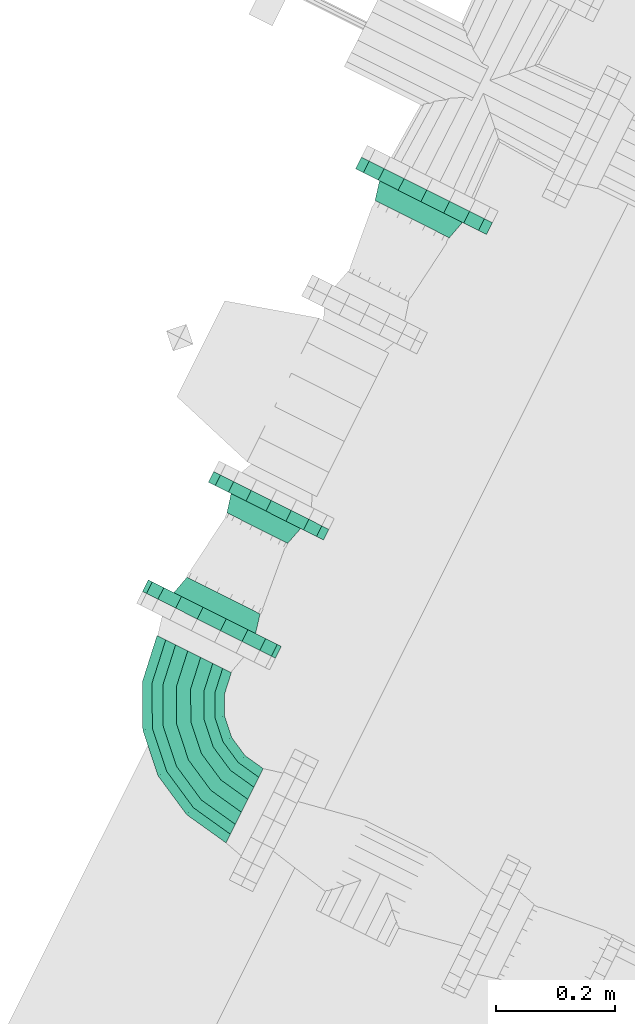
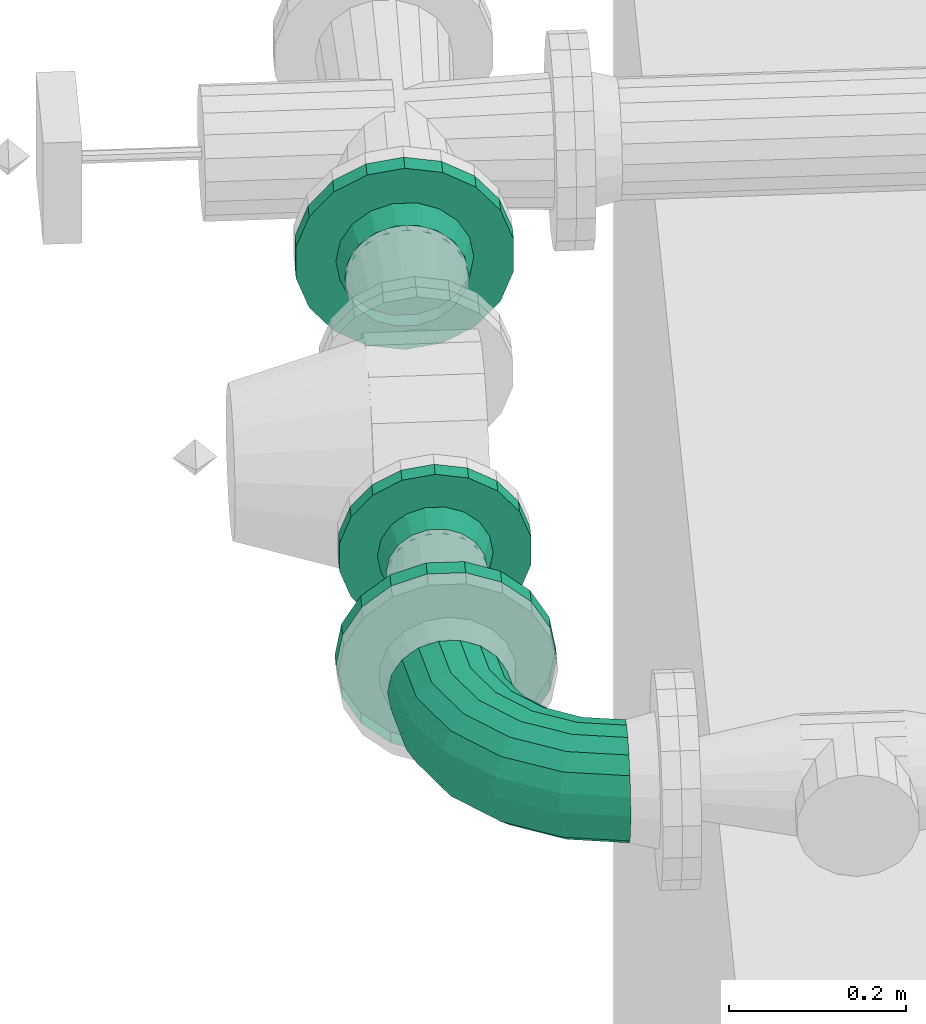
# One storey, part 102 of 206: 3 flow fittings, 1 flow segment.
"""IFC2X3 building model written with IfcOpenShell, lengths in metres."""

from ifc_helpers import new_model, si_unit, derived_unit, direction, frame, origin, place, context, subcontext, project, spatial, face_set, surface_model, source, transform, mapped, material, type_object, type_shapes, element, save


model = new_model("IFC2X3")

# Units and contexts
model_context = context("Model", 3, precision=5.2338327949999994e-05, world=origin(), true_north=direction((0.0, 1.0)))
body_context = subcontext(model_context, "Body", "Model", "MODEL_VIEW")
ifc_project = project(units=[si_unit("LENGTHUNIT", "METRE"), si_unit("AREAUNIT", "SQUARE_METRE"), si_unit("VOLUMEUNIT", "CUBIC_METRE"), si_unit("MASSUNIT", "GRAM", prefix="KILO"), si_unit("PLANEANGLEUNIT", "RADIAN"), derived_unit("THERMALTRANSMITTANCEUNIT", [(si_unit("MASSUNIT", "GRAM", prefix="KILO"), 1), (si_unit("THERMODYNAMICTEMPERATUREUNIT", "KELVIN"), -1), (si_unit("TIMEUNIT", "SECOND"), -3)])], contexts=[model_context])

# Site, building, storey
site_placement = place(None, frame((0.0, 0.0, 0.0), z_axis=(0.0, 0.0, 1.0), x_axis=(0.8939966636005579, -0.4480736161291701, 0.0)))
site = spatial("IfcSite", under=ifc_project, at=site_placement, Name="Default", CompositionType="ELEMENT")
building_placement = place(site_placement, origin())
building = spatial("IfcBuilding", under=site, at=building_placement, CompositionType="ELEMENT")
storey_placement = place(building_placement, origin())
storey = spatial("IfcBuildingStorey", under=building, at=storey_placement, Name="Erdgeschoss", CompositionType="ELEMENT", Elevation=0.0)

# Flow fittings
ifc_material = material(Name="IfcSurfaceStyle #1741")
distribution_element_type_1 = type_object("IfcDistributionElementType", Name="Flansch 307790:Flansch 307790", material=ifc_material)
shared_shape_1 = source(origin(), body_context, "Body", "SurfaceModel", [
    surface_model("IfcFaceBasedSurfaceModel", [(20.35098007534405, 6.45896109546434, 2.479), (20.30822755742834, 6.45896109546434, 2.4714615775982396), (20.30822755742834, 6.43696109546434, 2.4714615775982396), (20.35098007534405, 6.43696109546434, 2.479), (20.270631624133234, 6.45896109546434, 2.4497555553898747), (20.270631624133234, 6.43696109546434, 2.4497555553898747), (20.242726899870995, 6.45896109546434, 2.4165), (20.242726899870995, 6.43696109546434, 2.4165), (20.22787910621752, 6.45896109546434, 2.375706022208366), (20.22787910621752, 6.43696109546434, 2.375706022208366), (20.22787910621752, 6.45896109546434, 2.3322939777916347), (20.22787910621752, 6.43696109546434, 2.3322939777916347), (20.242726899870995, 6.45896109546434, 2.2915000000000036), (20.242726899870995, 6.43696109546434, 2.2915000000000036), (20.270631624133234, 6.45896109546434, 2.2582444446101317), (20.270631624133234, 6.43696109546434, 2.2582444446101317), (20.30822755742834, 6.45896109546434, 2.2365384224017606), (20.30822755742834, 6.43696109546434, 2.2365384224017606), (20.35098007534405, 6.45896109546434, 2.2290000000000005), (20.35098007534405, 6.43696109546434, 2.2290000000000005), (20.39373259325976, 6.45896109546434, 2.236538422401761), (20.39373259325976, 6.43696109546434, 2.236538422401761), (20.431328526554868, 6.45896109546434, 2.258244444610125), (20.431328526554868, 6.43696109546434, 2.258244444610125), (20.459233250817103, 6.45896109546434, 2.291500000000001), (20.459233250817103, 6.43696109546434, 2.291500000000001), (20.47408104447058, 6.45896109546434, 2.3322939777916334), (20.47408104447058, 6.43696109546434, 2.3322939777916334), (20.47408104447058, 6.45896109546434, 2.3757060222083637), (20.47408104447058, 6.43696109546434, 2.3757060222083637), (20.459233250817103, 6.45896109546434, 2.4164999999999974), (20.459233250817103, 6.43696109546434, 2.4164999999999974), (20.431328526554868, 6.45896109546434, 2.4497555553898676), (20.431328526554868, 6.43696109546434, 2.4497555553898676), (20.39373259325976, 6.45896109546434, 2.4714615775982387), (20.39373259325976, 6.43696109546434, 2.4714615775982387), (20.35098007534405, 6.43696109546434, 2.3540000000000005), (20.27298007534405, 6.43696109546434, 2.3540000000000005), (20.277684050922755, 6.43696109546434, 2.3273224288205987), (20.285342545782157, 6.403961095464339, 2.330109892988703), (20.281130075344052, 6.403961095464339, 2.3539999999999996), (20.291228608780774, 6.43696109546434, 2.303862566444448), (20.297471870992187, 6.403961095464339, 2.3091012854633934), (20.311980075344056, 6.43696109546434, 2.286450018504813), (20.316055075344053, 6.403961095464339, 2.2935081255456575), (20.33743551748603, 6.43696109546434, 2.277184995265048), (20.338850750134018, 6.403961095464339, 2.2852111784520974), (20.36452463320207, 6.43696109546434, 2.277184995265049), (20.363109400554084, 6.403961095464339, 2.2852111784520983), (20.38998007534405, 6.43696109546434, 2.2864500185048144), (20.38590507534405, 6.403961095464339, 2.2935081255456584), (20.410731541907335, 6.43696109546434, 2.3038625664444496), (20.404488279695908, 6.403961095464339, 2.3091012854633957), (20.42427609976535, 6.43696109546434, 2.3273224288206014), (20.416617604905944, 6.403961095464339, 2.330109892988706), (20.428980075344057, 6.436961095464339, 2.354000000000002), (20.420830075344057, 6.4039610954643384, 2.3540000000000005), (20.42427609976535, 6.43696109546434, 2.380677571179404), (20.41661760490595, 6.403961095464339, 2.3778901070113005), (20.41073154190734, 6.436961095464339, 2.4041374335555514), (20.40448827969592, 6.4039610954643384, 2.3988987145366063), (20.38998007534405, 6.43696109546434, 2.4215499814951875), (20.38590507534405, 6.403961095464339, 2.414491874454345), (20.364524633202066, 6.43696109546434, 2.4308150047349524), (20.363109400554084, 6.403961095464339, 2.422788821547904), (20.337435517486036, 6.43696109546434, 2.4308150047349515), (20.338850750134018, 6.403961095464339, 2.4227888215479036), (20.311980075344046, 6.43696109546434, 2.4215499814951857), (20.316055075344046, 6.403961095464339, 2.4144918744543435), (20.29122860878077, 6.43696109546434, 2.4041374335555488), (20.297471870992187, 6.403961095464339, 2.398898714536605), (20.277684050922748, 6.43696109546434, 2.3806775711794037), (20.285342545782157, 6.403961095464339, 2.3778901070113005)], [face_set([[[0, 1, 2, 3]], [[1, 4, 5, 2]], [[4, 6, 7, 5]], [[6, 8, 9, 7]], [[8, 10, 11, 9]], [[10, 12, 13, 11]], [[12, 14, 15, 13]], [[14, 16, 17, 15]], [[16, 18, 19, 17]], [[18, 20, 21, 19]], [[20, 22, 23, 21]], [[22, 24, 25, 23]], [[24, 26, 27, 25]], [[26, 28, 29, 27]], [[28, 30, 31, 29]], [[30, 32, 33, 31]], [[32, 34, 35, 33]], [[34, 0, 3, 35]], [[36, 35, 3]], [[36, 33, 35]], [[36, 31, 33]], [[36, 29, 31]], [[36, 27, 29]], [[36, 25, 27]], [[36, 23, 25]], [[36, 21, 23]], [[36, 19, 21]], [[36, 17, 19]], [[36, 15, 17]], [[36, 13, 15]], [[36, 11, 13]], [[36, 9, 11]], [[36, 7, 9]], [[36, 5, 7]], [[36, 2, 5]], [[36, 3, 2]], [[37, 38, 39, 40]], [[38, 41, 42, 39]], [[41, 43, 44, 42]], [[43, 45, 46, 44]], [[45, 47, 48, 46]], [[47, 49, 50, 48]], [[49, 51, 52, 50]], [[51, 53, 54, 52]], [[53, 55, 56, 54]], [[55, 57, 58, 56]], [[57, 59, 60, 58]], [[59, 61, 62, 60]], [[61, 63, 64, 62]], [[63, 65, 66, 64]], [[65, 67, 68, 66]], [[67, 69, 70, 68]], [[69, 71, 72, 70]], [[71, 37, 40, 72]]])]),
])
type_shapes(distribution_element_type_1, [shared_shape_1])
flow_fitting_1_placement = place(storey_placement, origin())
element("IfcFlowFitting", 1, at=flow_fitting_1_placement, inside=storey, type_object=distribution_element_type_1, material=ifc_material, Name="Flansch", ObjectType="Flansch", context=body_context, shape_type="MappedRepresentation", body=[
    mapped(shared_shape_1, transform((0.0, 0.0, 0.0), scale=1.0)),
])
distribution_element_type_2 = type_object("IfcDistributionElementType", Name="Flansch 309235:Flansch 309235", material=ifc_material)
shared_shape_2 = source(origin(), body_context, "Body", "SurfaceModel", [
    surface_model("IfcFaceBasedSurfaceModel", [(20.35098007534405, 5.874961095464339, 2.4639999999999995), (20.313357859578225, 5.874961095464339, 2.457366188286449), (20.313357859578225, 5.85496109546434, 2.457366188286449), (20.35098007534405, 5.85496109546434, 2.4640000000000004), (20.28027343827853, 5.874961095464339, 2.438264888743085), (20.28027343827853, 5.85496109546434, 2.438264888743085), (20.25571728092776, 5.874961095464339, 2.4090000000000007), (20.25571728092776, 5.85496109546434, 2.4090000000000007), (20.242651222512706, 5.874961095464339, 2.3731012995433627), (20.242651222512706, 5.85496109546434, 2.3731012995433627), (20.242651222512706, 5.874961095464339, 2.3348987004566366), (20.242651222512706, 5.85496109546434, 2.3348987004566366), (20.25571728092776, 5.874961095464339, 2.298999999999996), (20.25571728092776, 5.85496109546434, 2.298999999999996), (20.28027343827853, 5.874961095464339, 2.2697351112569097), (20.28027343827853, 5.85496109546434, 2.2697351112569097), (20.31335785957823, 5.874961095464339, 2.2506338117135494), (20.31335785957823, 5.85496109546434, 2.2506338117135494), (20.35098007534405, 5.874961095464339, 2.2439999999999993), (20.35098007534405, 5.85496109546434, 2.2439999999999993), (20.388602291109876, 5.874961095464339, 2.25063381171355), (20.388602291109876, 5.85496109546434, 2.25063381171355), (20.421686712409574, 5.874961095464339, 2.269735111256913), (20.421686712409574, 5.85496109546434, 2.269735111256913), (20.446242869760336, 5.874961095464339, 2.299000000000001), (20.446242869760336, 5.85496109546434, 2.299000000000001), (20.459308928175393, 5.874961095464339, 2.3348987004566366), (20.459308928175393, 5.85496109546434, 2.3348987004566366), (20.459308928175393, 5.874961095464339, 2.373101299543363), (20.459308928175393, 5.85496109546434, 2.373101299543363), (20.446242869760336, 5.874961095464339, 2.4090000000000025), (20.446242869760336, 5.85496109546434, 2.4090000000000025), (20.42168671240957, 5.874961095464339, 2.43826488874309), (20.42168671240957, 5.85496109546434, 2.43826488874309), (20.388602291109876, 5.874961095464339, 2.4573661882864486), (20.388602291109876, 5.85496109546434, 2.4573661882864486), (20.35098007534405, 5.85496109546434, 2.354), (20.285480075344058, 5.854961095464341, 2.353999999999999), (20.28943020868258, 5.854961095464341, 2.3315976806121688), (20.297276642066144, 5.822961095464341, 2.334453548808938), (20.293830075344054, 5.82296109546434, 2.354000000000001), (20.300804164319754, 5.854961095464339, 2.311897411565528), (20.3072006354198, 5.822961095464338, 2.3172646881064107), (20.318230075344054, 5.85496109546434, 2.29727533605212), (20.32240507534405, 5.82296109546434, 2.304506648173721), (20.33960611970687, 5.85496109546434, 2.289495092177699), (20.341056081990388, 5.82296109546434, 2.297718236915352), (20.362354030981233, 5.85496109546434, 2.2894950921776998), (20.360904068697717, 5.82296109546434, 2.2977182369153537), (20.38373007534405, 5.85496109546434, 2.2972753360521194), (20.379555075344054, 5.82296109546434, 2.3045066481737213), (20.401155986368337, 5.85496109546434, 2.311897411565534), (20.394759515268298, 5.82296109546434, 2.3172646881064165), (20.412529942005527, 5.85496109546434, 2.331597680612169), (20.404683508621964, 5.82296109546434, 2.3344535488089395), (20.41648007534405, 5.85496109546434, 2.353999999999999), (20.408130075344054, 5.82296109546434, 2.3540000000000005), (20.41252994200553, 5.85496109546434, 2.376402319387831), (20.404683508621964, 5.82296109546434, 2.3735464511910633), (20.401155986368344, 5.85496109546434, 2.396102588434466), (20.394759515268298, 5.82296109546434, 2.3907353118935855), (20.38373007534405, 5.85496109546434, 2.410724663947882), (20.37955507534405, 5.82296109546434, 2.403493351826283), (20.362354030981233, 5.85496109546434, 2.4185049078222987), (20.36090406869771, 5.82296109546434, 2.410281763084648), (20.33960611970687, 5.85496109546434, 2.4185049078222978), (20.341056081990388, 5.82296109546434, 2.4102817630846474), (20.31823007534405, 5.85496109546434, 2.410724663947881), (20.322405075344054, 5.82296109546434, 2.403493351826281), (20.30080416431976, 5.85496109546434, 2.3961025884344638), (20.3072006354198, 5.82296109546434, 2.3907353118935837), (20.289430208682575, 5.85496109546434, 2.3764023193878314), (20.297276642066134, 5.82296109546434, 2.3735464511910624)], [face_set([[[0, 1, 2, 3]], [[1, 4, 5, 2]], [[4, 6, 7, 5]], [[6, 8, 9, 7]], [[8, 10, 11, 9]], [[10, 12, 13, 11]], [[12, 14, 15, 13]], [[14, 16, 17, 15]], [[16, 18, 19, 17]], [[18, 20, 21, 19]], [[20, 22, 23, 21]], [[22, 24, 25, 23]], [[24, 26, 27, 25]], [[26, 28, 29, 27]], [[28, 30, 31, 29]], [[30, 32, 33, 31]], [[32, 34, 35, 33]], [[34, 0, 3, 35]], [[36, 35, 3]], [[36, 33, 35]], [[36, 31, 33]], [[36, 29, 31]], [[36, 27, 29]], [[36, 25, 27]], [[36, 23, 25]], [[36, 21, 23]], [[36, 19, 21]], [[36, 17, 19]], [[36, 15, 17]], [[36, 13, 15]], [[36, 11, 13]], [[36, 9, 11]], [[36, 7, 9]], [[36, 5, 7]], [[36, 2, 5]], [[36, 3, 2]], [[37, 38, 39, 40]], [[38, 41, 42, 39]], [[41, 43, 44, 42]], [[43, 45, 46, 44]], [[45, 47, 48, 46]], [[47, 49, 50, 48]], [[49, 51, 52, 50]], [[51, 53, 54, 52]], [[53, 55, 56, 54]], [[55, 57, 58, 56]], [[57, 59, 60, 58]], [[59, 61, 62, 60]], [[61, 63, 64, 62]], [[63, 65, 66, 64]], [[65, 67, 68, 66]], [[67, 69, 70, 68]], [[69, 71, 72, 70]], [[71, 37, 40, 72]]])]),
])
type_shapes(distribution_element_type_2, [shared_shape_2])
flow_fitting_2_placement = place(storey_placement, origin())
element("IfcFlowFitting", 2, at=flow_fitting_2_placement, inside=storey, type_object=distribution_element_type_2, material=ifc_material, Name="Flansch", ObjectType="Flansch", context=body_context, shape_type="MappedRepresentation", body=[
    mapped(shared_shape_2, transform((0.0, 0.0, 0.0), scale=1.0)),
])
distribution_element_type_3 = type_object("IfcDistributionElementType", Name="Flansch 309258:Flansch 309258", material=ifc_material)
shared_shape_3 = source(origin(), body_context, "Body", "SurfaceModel", [
    surface_model("IfcFaceBasedSurfaceModel", [(20.225980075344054, 5.640961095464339, 2.354000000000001), (20.233518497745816, 5.640961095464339, 2.396752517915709), (20.233518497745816, 5.662961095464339, 2.396752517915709), (20.225980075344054, 5.662961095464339, 2.354000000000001), (20.255224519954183, 5.640961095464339, 2.4343484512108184), (20.255224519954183, 5.662961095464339, 2.4343484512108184), (20.28848007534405, 5.640961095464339, 2.4622531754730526), (20.28848007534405, 5.662961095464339, 2.4622531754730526), (20.329274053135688, 5.640961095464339, 2.4771009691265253), (20.329274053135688, 5.662961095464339, 2.4771009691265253), (20.37268609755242, 5.640961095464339, 2.4771009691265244), (20.37268609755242, 5.662961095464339, 2.4771009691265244), (20.413480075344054, 5.640961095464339, 2.4622531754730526), (20.413480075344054, 5.662961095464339, 2.4622531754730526), (20.446735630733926, 5.640961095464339, 2.4343484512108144), (20.446735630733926, 5.662961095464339, 2.4343484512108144), (20.468441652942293, 5.640961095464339, 2.396752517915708), (20.468441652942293, 5.662961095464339, 2.396752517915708), (20.47598007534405, 5.640961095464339, 2.3539999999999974), (20.47598007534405, 5.662961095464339, 2.3539999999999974), (20.468441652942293, 5.640961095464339, 2.3112474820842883), (20.468441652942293, 5.662961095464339, 2.3112474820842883), (20.446735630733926, 5.640961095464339, 2.2736515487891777), (20.446735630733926, 5.662961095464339, 2.2736515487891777), (20.413480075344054, 5.640961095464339, 2.2457468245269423), (20.413480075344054, 5.662961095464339, 2.2457468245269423), (20.37268609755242, 5.640961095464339, 2.230899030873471), (20.37268609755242, 5.662961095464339, 2.230899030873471), (20.329274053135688, 5.640961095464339, 2.2308990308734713), (20.329274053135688, 5.662961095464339, 2.2308990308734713), (20.28848007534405, 5.640961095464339, 2.2457468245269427), (20.28848007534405, 5.662961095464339, 2.2457468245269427), (20.255224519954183, 5.640961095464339, 2.273651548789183), (20.255224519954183, 5.662961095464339, 2.273651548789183), (20.233518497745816, 5.640961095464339, 2.3112474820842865), (20.233518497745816, 5.662961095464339, 2.3112474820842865), (20.350980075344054, 5.662961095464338, 2.353999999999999), (20.350980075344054, 5.662961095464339, 2.4319999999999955), (20.377657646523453, 5.662961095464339, 2.427296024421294), (20.374870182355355, 5.695961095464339, 2.419637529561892), (20.350980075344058, 5.69596109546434, 2.423849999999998), (20.401117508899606, 5.662961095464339, 2.413751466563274), (20.39587878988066, 5.695961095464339, 2.407508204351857), (20.418530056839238, 5.662961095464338, 2.392999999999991), (20.411471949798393, 5.695961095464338, 2.3889249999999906), (20.427795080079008, 5.662961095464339, 2.3675445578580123), (20.41976889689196, 5.695961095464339, 2.366129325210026), (20.427795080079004, 5.662961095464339, 2.340455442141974), (20.419768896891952, 5.695961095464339, 2.3418706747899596), (20.418530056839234, 5.662961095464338, 2.3149999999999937), (20.411471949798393, 5.695961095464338, 2.319074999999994), (20.401117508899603, 5.662961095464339, 2.294248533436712), (20.39587878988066, 5.695961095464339, 2.300491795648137), (20.377657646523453, 5.662961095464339, 2.280703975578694), (20.37487018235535, 5.695961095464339, 2.2883624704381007), (20.350980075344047, 5.662961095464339, 2.2759999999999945), (20.35098007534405, 5.695961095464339, 2.2841499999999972), (20.324302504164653, 5.662961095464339, 2.2807039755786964), (20.327089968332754, 5.695961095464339, 2.288362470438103), (20.3008426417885, 5.662961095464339, 2.294248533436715), (20.306081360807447, 5.695961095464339, 2.300491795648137), (20.283430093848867, 5.662961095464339, 2.3149999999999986), (20.29048820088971, 5.695961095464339, 2.319074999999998), (20.2741650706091, 5.662961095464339, 2.340455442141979), (20.282191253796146, 5.695961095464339, 2.3418706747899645), (20.2741650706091, 5.662961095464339, 2.367544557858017), (20.282191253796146, 5.695961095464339, 2.3661293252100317), (20.28343009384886, 5.66296109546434, 2.3929999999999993), (20.290488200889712, 5.69596109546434, 2.388924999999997), (20.30084264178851, 5.662961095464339, 2.413751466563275), (20.306081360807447, 5.695961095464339, 2.4075082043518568), (20.324302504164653, 5.662961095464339, 2.4272960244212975), (20.327089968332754, 5.695961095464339, 2.4196375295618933)], [face_set([[[0, 1, 2, 3]], [[1, 4, 5, 2]], [[4, 6, 7, 5]], [[6, 8, 9, 7]], [[8, 10, 11, 9]], [[10, 12, 13, 11]], [[12, 14, 15, 13]], [[14, 16, 17, 15]], [[16, 18, 19, 17]], [[18, 20, 21, 19]], [[20, 22, 23, 21]], [[22, 24, 25, 23]], [[24, 26, 27, 25]], [[26, 28, 29, 27]], [[28, 30, 31, 29]], [[30, 32, 33, 31]], [[32, 34, 35, 33]], [[34, 0, 3, 35]], [[36, 35, 3]], [[36, 33, 35]], [[36, 31, 33]], [[36, 29, 31]], [[36, 27, 29]], [[36, 25, 27]], [[36, 23, 25]], [[36, 21, 23]], [[36, 19, 21]], [[36, 17, 19]], [[36, 15, 17]], [[36, 13, 15]], [[36, 11, 13]], [[36, 9, 11]], [[36, 7, 9]], [[36, 5, 7]], [[36, 2, 5]], [[36, 3, 2]], [[37, 38, 39, 40]], [[38, 41, 42, 39]], [[41, 43, 44, 42]], [[43, 45, 46, 44]], [[45, 47, 48, 46]], [[47, 49, 50, 48]], [[49, 51, 52, 50]], [[51, 53, 54, 52]], [[53, 55, 56, 54]], [[55, 57, 58, 56]], [[57, 59, 60, 58]], [[59, 61, 62, 60]], [[61, 63, 64, 62]], [[63, 65, 66, 64]], [[65, 67, 68, 66]], [[67, 69, 70, 68]], [[69, 71, 72, 70]], [[71, 37, 40, 72]]])]),
])
type_shapes(distribution_element_type_3, [shared_shape_3])
flow_fitting_3_placement = place(storey_placement, origin())
element("IfcFlowFitting", 3, at=flow_fitting_3_placement, inside=storey, type_object=distribution_element_type_3, material=ifc_material, Name="Flansch", ObjectType="Flansch", context=body_context, shape_type="MappedRepresentation", body=[
    mapped(shared_shape_3, transform((0.0, 0.0, 0.0), scale=1.0)),
])

# Flow segment
distribution_element_type_4 = type_object("IfcDistributionElementType", Name="Rohrbogen 311557:Rohrbogen 311557", material=ifc_material)
shared_shape_4 = source(origin(), body_context, "Body", "SurfaceModel", [
    surface_model("IfcFaceBasedSurfaceModel", [(20.28113007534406, 5.585961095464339, 2.3539999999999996), (20.28534254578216, 5.585961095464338, 2.3301098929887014), (20.297854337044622, 5.506964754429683, 2.330109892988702), (20.29384803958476, 5.50566302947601, 2.354000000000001), (20.334164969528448, 5.435701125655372, 2.3301098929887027), (20.33075700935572, 5.433225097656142, 2.3540000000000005), (20.390720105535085, 5.379145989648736, 2.3301098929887), (20.38824407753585, 5.375738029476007, 2.3539999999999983), (20.4619837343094, 5.342835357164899, 2.330109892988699), (20.460682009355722, 5.338829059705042, 2.353999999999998), (20.540980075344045, 5.3303235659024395, 2.3301098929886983), (20.540980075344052, 5.326111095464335, 2.353999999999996), (20.297471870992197, 5.585961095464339, 2.309101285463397), (20.309390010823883, 5.510712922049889, 2.309101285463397), (20.343977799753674, 5.442830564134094, 2.309101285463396), (20.397849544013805, 5.388958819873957, 2.309101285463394), (20.465731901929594, 5.354371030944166, 2.309101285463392), (20.540980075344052, 5.342452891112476, 2.3091012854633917), (20.316055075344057, 5.585961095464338, 2.2935081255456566), (20.327063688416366, 5.516455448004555, 2.293508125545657), (20.359011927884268, 5.453753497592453, 2.2935081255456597), (20.40877247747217, 5.403992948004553, 2.2935081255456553), (20.47147442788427, 5.372044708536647, 2.2935081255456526), (20.540980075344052, 5.361036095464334, 2.293508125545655), (20.338850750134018, 5.585961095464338, 2.2852111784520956), (20.348743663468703, 5.5234996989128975, 2.2852111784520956), (20.377454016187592, 5.467152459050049, 2.285211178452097), (20.422171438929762, 5.422435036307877, 2.285211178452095), (20.47851867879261, 5.393724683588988, 2.285211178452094), (20.540980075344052, 5.383831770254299, 2.285211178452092), (20.363109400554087, 5.585961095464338, 2.285211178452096), (20.371815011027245, 5.5309960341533, 2.285211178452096), (20.397079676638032, 5.481411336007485, 2.2852111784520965), (20.4364303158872, 5.442060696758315, 2.285211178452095), (20.486015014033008, 5.416796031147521, 2.285211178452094), (20.540980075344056, 5.408090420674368, 2.285211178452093), (20.385905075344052, 5.585961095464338, 2.2935081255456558), (20.39349498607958, 5.538040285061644, 2.2935081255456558), (20.41552176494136, 5.494810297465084, 2.293508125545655), (20.449829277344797, 5.460502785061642, 2.2935081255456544), (20.493059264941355, 5.438476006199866, 2.293508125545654), (20.540980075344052, 5.430886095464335, 2.2935081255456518), (20.404488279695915, 5.585961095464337, 2.309101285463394), (20.411168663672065, 5.543782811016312, 2.309101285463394), (20.43055589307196, 5.505733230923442, 2.309101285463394), (20.460752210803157, 5.475536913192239, 2.3091012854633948), (20.49880179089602, 5.4561496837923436, 2.30910128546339), (20.540980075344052, 5.449469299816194, 2.30910128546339), (20.41661760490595, 5.585961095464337, 2.330109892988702), (20.42270433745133, 5.54753097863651, 2.330109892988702), (20.440368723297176, 5.512862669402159, 2.3301098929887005), (20.467881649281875, 5.4853497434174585, 2.3301098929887), (20.50254995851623, 5.467685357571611, 2.330109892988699), (20.540980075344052, 5.461598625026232, 2.3301098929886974), (20.420830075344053, 5.585961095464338, 2.353999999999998), (20.426710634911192, 5.548832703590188, 2.3539999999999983), (20.443776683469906, 5.515338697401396, 2.3539999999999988), (20.47035767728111, 5.488757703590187, 2.3539999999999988), (20.5038516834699, 5.471691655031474, 2.353999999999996), (20.540980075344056, 5.465811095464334, 2.3539999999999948), (20.416617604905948, 5.585961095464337, 2.377890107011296), (20.42270433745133, 5.54753097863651, 2.377890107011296), (20.440368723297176, 5.51286266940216, 2.377890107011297), (20.467881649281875, 5.485349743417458, 2.3778901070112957), (20.50254995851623, 5.467685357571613, 2.3778901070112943), (20.540980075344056, 5.461598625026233, 2.3778901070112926), (20.40448827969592, 5.585961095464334, 2.3988987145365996), (20.41116866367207, 5.543782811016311, 2.3988987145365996), (20.43055589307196, 5.505733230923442, 2.3988987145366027), (20.460752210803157, 5.475536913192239, 2.3988987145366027), (20.49880179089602, 5.456149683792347, 2.398898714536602), (20.540980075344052, 5.449469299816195, 2.398898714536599), (20.38590507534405, 5.585961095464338, 2.414491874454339), (20.39349498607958, 5.538040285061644, 2.414491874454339), (20.41552176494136, 5.494810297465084, 2.4144918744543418), (20.4498292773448, 5.460502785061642, 2.414491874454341), (20.49305926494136, 5.438476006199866, 2.4144918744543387), (20.540980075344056, 5.430886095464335, 2.4144918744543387), (20.363109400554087, 5.585961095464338, 2.422788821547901), (20.371815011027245, 5.5309960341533, 2.4227888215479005), (20.397079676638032, 5.481411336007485, 2.422788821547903), (20.4364303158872, 5.442060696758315, 2.4227888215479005), (20.486015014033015, 5.416796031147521, 2.422788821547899), (20.540980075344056, 5.408090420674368, 2.4227888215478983), (20.33885075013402, 5.585961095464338, 2.422788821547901), (20.34874366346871, 5.5234996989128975, 2.422788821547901), (20.377454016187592, 5.467152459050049, 2.422788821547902), (20.422171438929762, 5.422435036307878, 2.422788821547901), (20.47851867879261, 5.393724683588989, 2.4227888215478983), (20.540980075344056, 5.383831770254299, 2.4227888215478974), (20.31605507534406, 5.585961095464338, 2.4144918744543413), (20.32706368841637, 5.516455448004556, 2.414491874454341), (20.359011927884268, 5.4537534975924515, 2.414491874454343), (20.40877247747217, 5.403992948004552, 2.414491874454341), (20.471474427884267, 5.372044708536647, 2.414491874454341), (20.540980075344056, 5.361036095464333, 2.414491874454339), (20.297471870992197, 5.585961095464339, 2.398898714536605), (20.309390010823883, 5.510712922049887, 2.398898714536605), (20.343977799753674, 5.442830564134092, 2.3988987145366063), (20.397849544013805, 5.388958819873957, 2.3988987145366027), (20.4657319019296, 5.354371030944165, 2.398898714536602), (20.540980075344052, 5.342452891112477, 2.3988987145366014), (20.285342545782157, 5.585961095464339, 2.377890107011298), (20.29785433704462, 5.506964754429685, 2.3778901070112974), (20.334164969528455, 5.435701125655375, 2.377890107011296), (20.390720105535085, 5.3791459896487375, 2.3778901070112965), (20.4619837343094, 5.342835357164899, 2.377890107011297), (20.540980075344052, 5.33032356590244, 2.3778901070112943)], [face_set([[[0, 1, 2, 3]], [[3, 2, 4, 5]], [[5, 4, 6, 7]], [[7, 6, 8, 9]], [[9, 8, 10, 11]], [[1, 12, 13, 2]], [[2, 13, 14, 4]], [[4, 14, 15, 6]], [[6, 15, 16, 8]], [[8, 16, 17, 10]], [[12, 18, 19, 13]], [[13, 19, 20, 14]], [[14, 20, 21, 15]], [[15, 21, 22, 16]], [[16, 22, 23, 17]], [[18, 24, 25, 19]], [[19, 25, 26, 20]], [[20, 26, 27, 21]], [[21, 27, 28, 22]], [[22, 28, 29, 23]], [[24, 30, 31, 25]], [[25, 31, 32, 26]], [[26, 32, 33, 27]], [[27, 33, 34, 28]], [[28, 34, 35, 29]], [[30, 36, 37, 31]], [[31, 37, 38, 32]], [[32, 38, 39, 33]], [[33, 39, 40, 34]], [[34, 40, 41, 35]], [[36, 42, 43, 37]], [[37, 43, 44, 38]], [[38, 44, 45, 39]], [[39, 45, 46, 40]], [[40, 46, 47, 41]], [[42, 48, 49, 43]], [[43, 49, 50, 44]], [[44, 50, 51, 45]], [[45, 51, 52, 46]], [[46, 52, 53, 47]], [[48, 54, 55, 49]], [[49, 55, 56, 50]], [[50, 56, 57, 51]], [[51, 57, 58, 52]], [[52, 58, 59, 53]], [[54, 60, 61, 55]], [[55, 61, 62, 56]], [[56, 62, 63, 57]], [[57, 63, 64, 58]], [[58, 64, 65, 59]], [[60, 66, 67, 61]], [[61, 67, 68, 62]], [[62, 68, 69, 63]], [[63, 69, 70, 64]], [[64, 70, 71, 65]], [[66, 72, 73, 67]], [[67, 73, 74, 68]], [[68, 74, 75, 69]], [[69, 75, 76, 70]], [[70, 76, 77, 71]], [[72, 78, 79, 73]], [[73, 79, 80, 74]], [[74, 80, 81, 75]], [[75, 81, 82, 76]], [[76, 82, 83, 77]], [[78, 84, 85, 79]], [[79, 85, 86, 80]], [[80, 86, 87, 81]], [[81, 87, 88, 82]], [[82, 88, 89, 83]], [[84, 90, 91, 85]], [[85, 91, 92, 86]], [[86, 92, 93, 87]], [[87, 93, 94, 88]], [[88, 94, 95, 89]], [[90, 96, 97, 91]], [[91, 97, 98, 92]], [[92, 98, 99, 93]], [[93, 99, 100, 94]], [[94, 100, 101, 95]], [[96, 102, 103, 97]], [[97, 103, 104, 98]], [[98, 104, 105, 99]], [[99, 105, 106, 100]], [[100, 106, 107, 101]], [[102, 0, 3, 103]], [[103, 3, 5, 104]], [[104, 5, 7, 105]], [[105, 7, 9, 106]], [[106, 9, 11, 107]]])]),
])
type_shapes(distribution_element_type_4, [shared_shape_4])
flow_segment_placement = place(storey_placement, origin())
element("IfcFlowSegment", 4, at=flow_segment_placement, inside=storey, type_object=distribution_element_type_4, material=ifc_material, Name="Rohrbogen", ObjectType="Rohrbogen", context=body_context, shape_type="MappedRepresentation", body=[
    mapped(shared_shape_4, transform((0.0, 0.0, 0.0), scale=1.0)),
])

save(model, "model.ifc")
